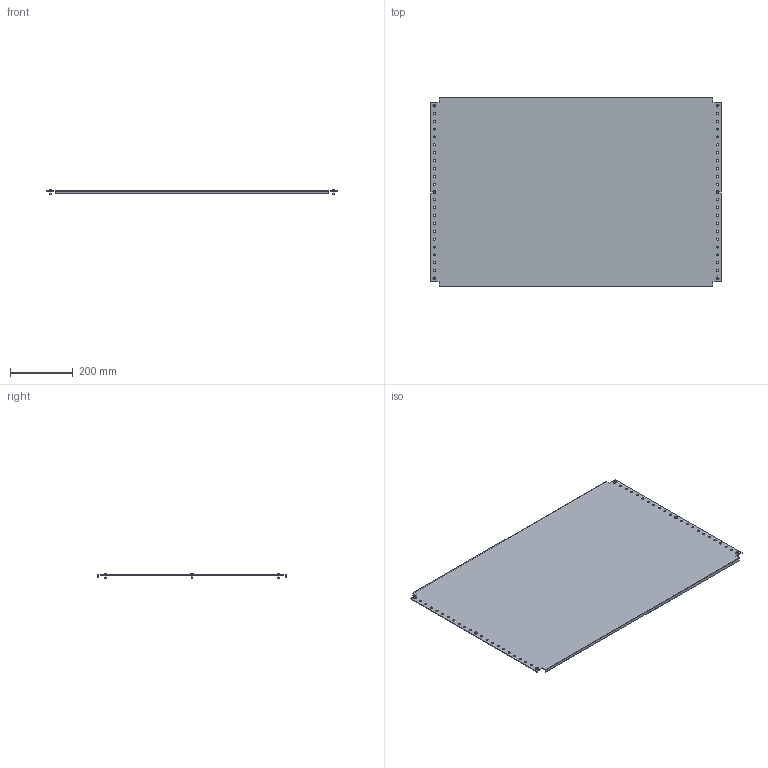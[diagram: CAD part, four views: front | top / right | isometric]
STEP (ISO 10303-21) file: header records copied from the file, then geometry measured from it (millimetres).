
FILE_DESCRIPTION (( 'STEP AP203' ), '1' );
FILE_NAME ('R6MPP061000.STEP', '2025-05-16T08:16:45', ( '' ), ( '' ), 'SwSTEP 2.0', 'SolidWorks 2022', '' );
FILE_SCHEMA (( 'CONFIG_CONTROL_DESIGN' ));
Length unit declared in the file: millimetre
Products named in the file (3): RB.3313.00.00.0 simple_-19; R6MPP061000; M5x12 DIN 7500 C Torx Zinc_stright
Assembly tree (7 placements, depth 2):
  R6MPP061000
    RB.3313.00.00.0 simple_-19
    M5x12 DIN 7500 C Torx Zinc_stright  x6
Bounding box: 925 x 598 x 15.56 mm (x, y, z)
Volume: 1018235.6 mm3; surface area: 1138359.2 mm2
Topology: 7 solids, 7 shells, 262 faces, 648 edges, 394 vertices
Faces by surface type: cylinder 116, plane 74, cone 24, torus 24, bspline 12, sphere 12
Entity records: 5487 total; most frequent: CARTESIAN_POINT 1019, DIRECTION 898, ORIENTED_EDGE 792, EDGE_CURVE 396, AXIS2_PLACEMENT_3D 362, VERTEX_POINT 259, EDGE_LOOP 235, CIRCLE 212
